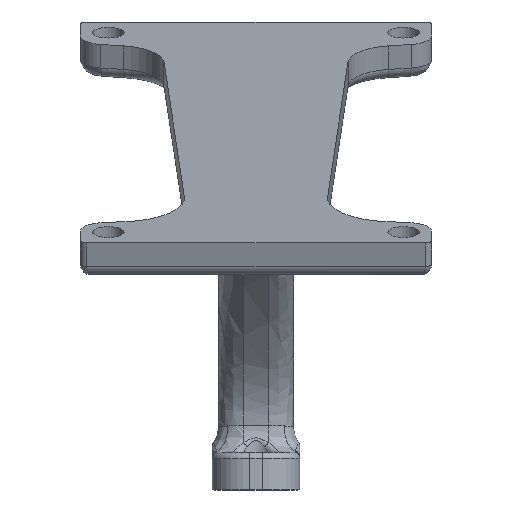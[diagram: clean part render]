
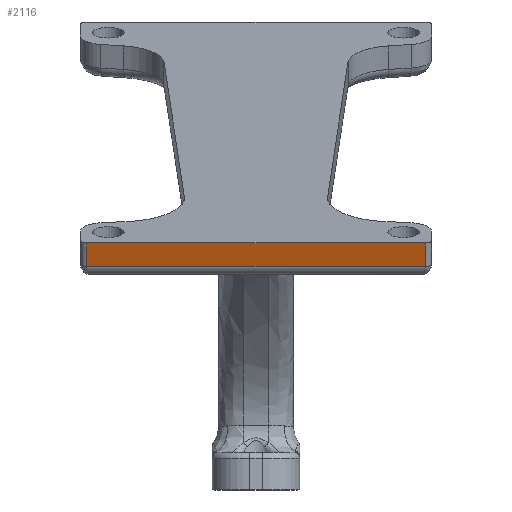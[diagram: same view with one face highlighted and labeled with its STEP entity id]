
A CAD part, front view. The second image highlights one B-rep face of the part: STEP entity #2116.
In plain terms, the highlighted planar face has unit normal (0, -0.94, -0.342).
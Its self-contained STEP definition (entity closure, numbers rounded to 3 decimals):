
#53=PLANE('',#2334);
#133=LINE('',#4451,#244);
#143=LINE('',#4515,#254);
#145=LINE('',#4553,#256);
#146=LINE('',#4556,#257);
#244=VECTOR('',#2730,10.);
#254=VECTOR('',#2768,10.);
#256=VECTOR('',#2778,10.);
#257=VECTOR('',#2783,10.);
#421=FACE_OUTER_BOUND('',#565,.T.);
#565=EDGE_LOOP('',(#1746,#1747,#1748,#1749));
#983=VERTEX_POINT('',#4448);
#984=VERTEX_POINT('',#4450);
#999=VERTEX_POINT('',#4514);
#1001=VERTEX_POINT('',#4552);
#1243=EDGE_CURVE('',#983,#984,#133,.T.);
#1263=EDGE_CURVE('',#984,#999,#143,.T.);
#1268=EDGE_CURVE('',#999,#1001,#145,.T.);
#1270=EDGE_CURVE('',#1001,#983,#146,.T.);
#1746=ORIENTED_EDGE('',*,*,#1263,.F.);
#1747=ORIENTED_EDGE('',*,*,#1243,.F.);
#1748=ORIENTED_EDGE('',*,*,#1270,.F.);
#1749=ORIENTED_EDGE('',*,*,#1268,.F.);
#2116=ADVANCED_FACE('',(#421),#53,.T.);
#2334=AXIS2_PLACEMENT_3D('',#4555,#2781,#2782);
#2730=DIRECTION('',(1.,0.,0.));
#2768=DIRECTION('',(0.,0.342,-0.94));
#2778=DIRECTION('',(-1.,0.,0.));
#2781=DIRECTION('center_axis',(0.,-0.94,-0.342));
#2782=DIRECTION('ref_axis',(0.,0.342,-0.94));
#2783=DIRECTION('',(0.,-0.342,0.94));
#4448=CARTESIAN_POINT('',(-13.5,5.313,-5.426));
#4450=CARTESIAN_POINT('',(13.5,5.313,-5.426));
#4451=CARTESIAN_POINT('',(0.,5.313,-5.426));
#4514=CARTESIAN_POINT('',(13.5,5.997,-7.305));
#4515=CARTESIAN_POINT('',(13.5,5.569,-6.131));
#4552=CARTESIAN_POINT('',(-13.5,5.997,-7.305));
#4553=CARTESIAN_POINT('',(0.,5.997,-7.305));
#4555=CARTESIAN_POINT('Origin',(0.,5.313,-5.426));
#4556=CARTESIAN_POINT('',(-13.5,5.569,-6.131));
